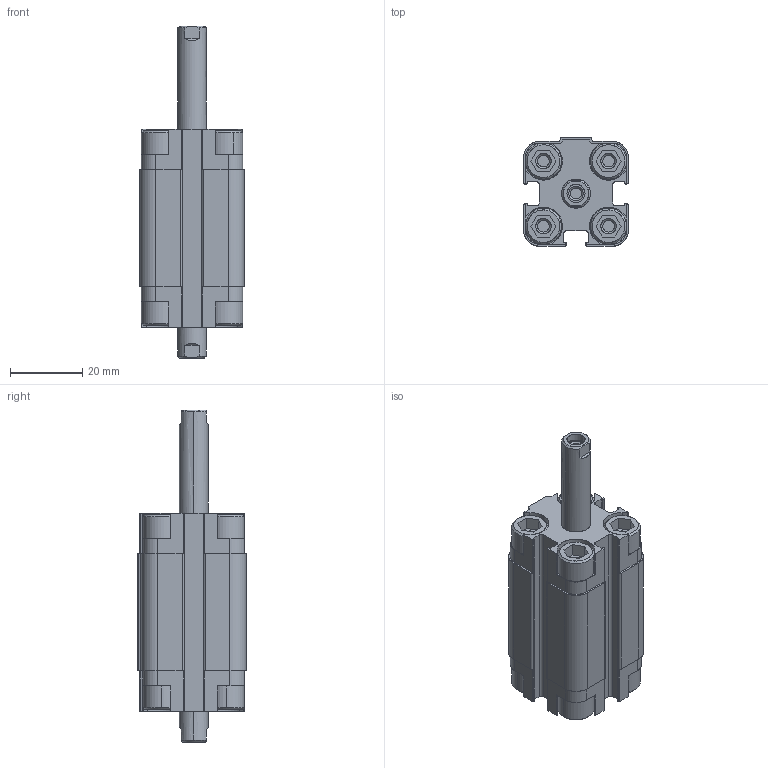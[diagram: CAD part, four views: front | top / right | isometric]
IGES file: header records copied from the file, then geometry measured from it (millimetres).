
Start section: SolidWorks IGES file using analytic representation for surfaces
Global section: file name: K:\Disegni Esecutivi\Cilindri\2_DISEGNI_cilindri_in_produzione\5_Cilindri Compatti\complessivicompatti\QJ\QJ016\QJ016_PARTE\QJ016_IGES\QJ0160020A.igs; native system: SolidWorks 2011; preprocessor: SolidWorks 2011; author: Cad01; date: 110922.094839; units: millimetre
Bounding box: 29 x 30 x 91.8 mm (x, y, z)
Surface area: 13763.5 mm2 (no closed solid volume)
Topology: 0 solids, 0 shells, 368 faces, 4109 edges, 4109 vertices
Faces by surface type: bspline 202, revolution 166
